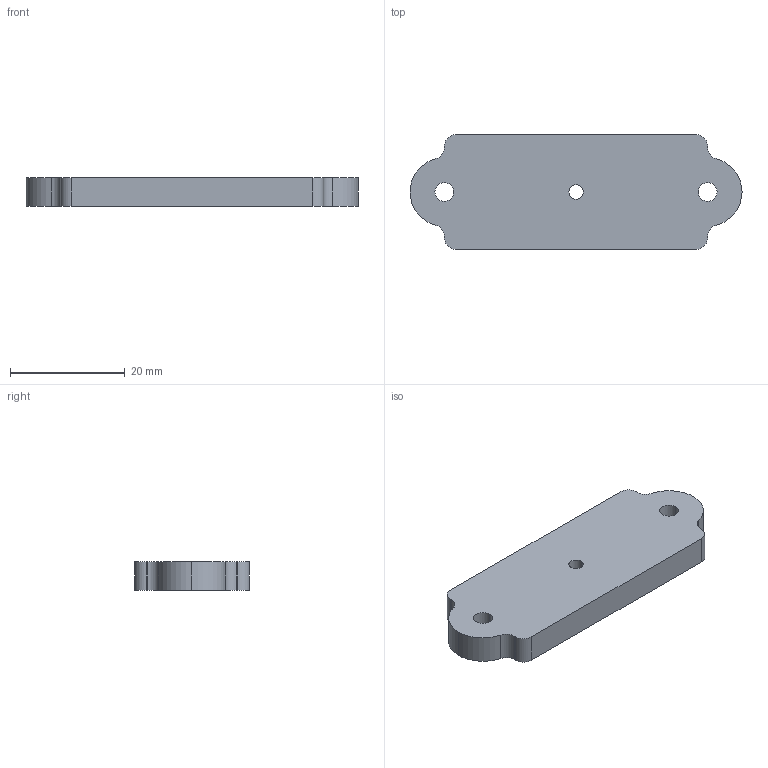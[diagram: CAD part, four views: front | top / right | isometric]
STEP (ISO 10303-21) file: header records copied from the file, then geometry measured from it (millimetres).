
FILE_DESCRIPTION (( 'STEP AP214' ), '1' );
FILE_NAME ('2022-07 - PELTIER HEATSINK.STEP', '2023-01-14T15:28:57', ( '' ), ( '' ), 'SwSTEP 2.0', 'SolidWorks 2020', '' );
FILE_SCHEMA (( 'AUTOMOTIVE_DESIGN' ));
Length unit declared in the file: millimetre
Products named in the file (1): 2022-07 - PELTIER HEATSINK
Bounding box: 57.98 x 20 x 5 mm (x, y, z)
Volume: 4962.4 mm3; surface area: 2884.9 mm2
Topology: 1 solids, 1 shells, 36 faces, 99 edges, 66 vertices
Faces by surface type: cylinder 23, plane 13
Entity records: 1259 total; most frequent: DIRECTION 219, CARTESIAN_POINT 202, ORIENTED_EDGE 198, EDGE_CURVE 99, AXIS2_PLACEMENT_3D 83, VERTEX_POINT 66, VECTOR 53, LINE 53
